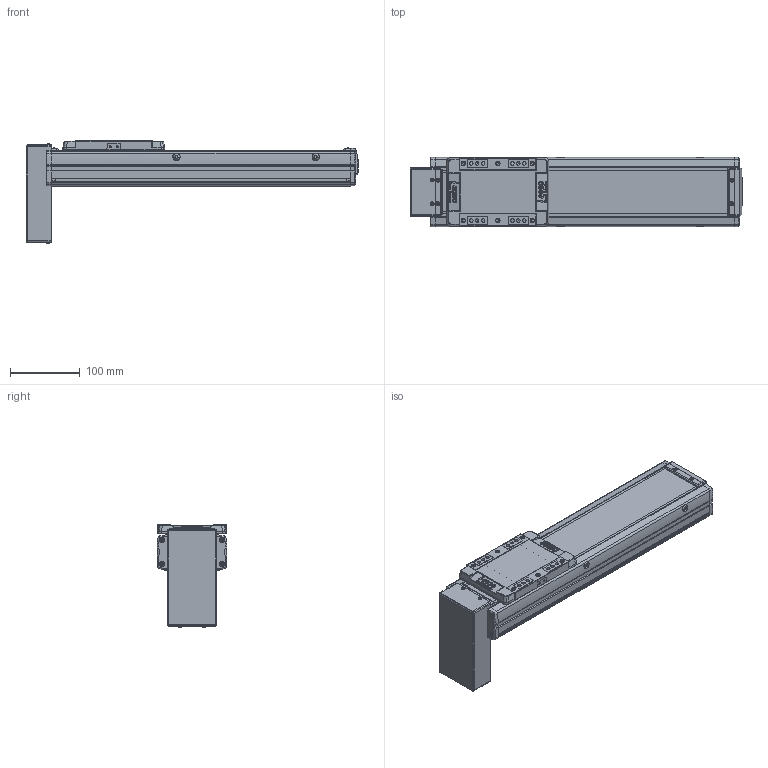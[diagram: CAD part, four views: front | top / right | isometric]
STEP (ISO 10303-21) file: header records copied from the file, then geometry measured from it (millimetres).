
FILE_DESCRIPTION(('STEP AP214'),'1');
FILE_NAME('Z:/Web/3D/SAN100/SAN100 양산용 (STEP)/SAN100ㅁㅁ-250PB.stp','2013-04-25T04:14:43',(' '),(' '),'Spatial InterOp 3D',' ',' ');
FILE_SCHEMA(('automotive_design'));
Length unit declared in the file: millimetre
Products named in the file (37): SUS COVER; SFX-SAN100; RRCV-SAN100; 스크루 : Round - M4.0 x 10.0; M3.0 x 6.0; 스크루 : Round - M3.0 x 6.0; FRBL-SAN100; SLBL-SAN100; SLCV-SAN100; 스크루 : Countersunk - M3.0 x 6.0; BASE; 스크루 : Round - M5.0 x 6.0; BTCV-SAN100; FRCV-SAN100
Bounding box: 476.5 x 100 x 148.36 mm (x, y, z)
Volume: 1640850.2 mm3; surface area: 385420.3 mm2
Topology: 37 solids, 38 shells, 1982 faces, 5138 edges, 3311 vertices
Faces by surface type: plane 1005, cylinder 705, cone 178, sphere 52, torus 30, bspline 12
Entity records: 77764 total; most frequent: CARTESIAN_POINT 11482, DIRECTION 10911, ORIENTED_EDGE 10128, EDGE_CURVE 5064, AXIS2_PLACEMENT_3D 3921, VERTEX_POINT 3311, LINE 3069, VECTOR 3069
